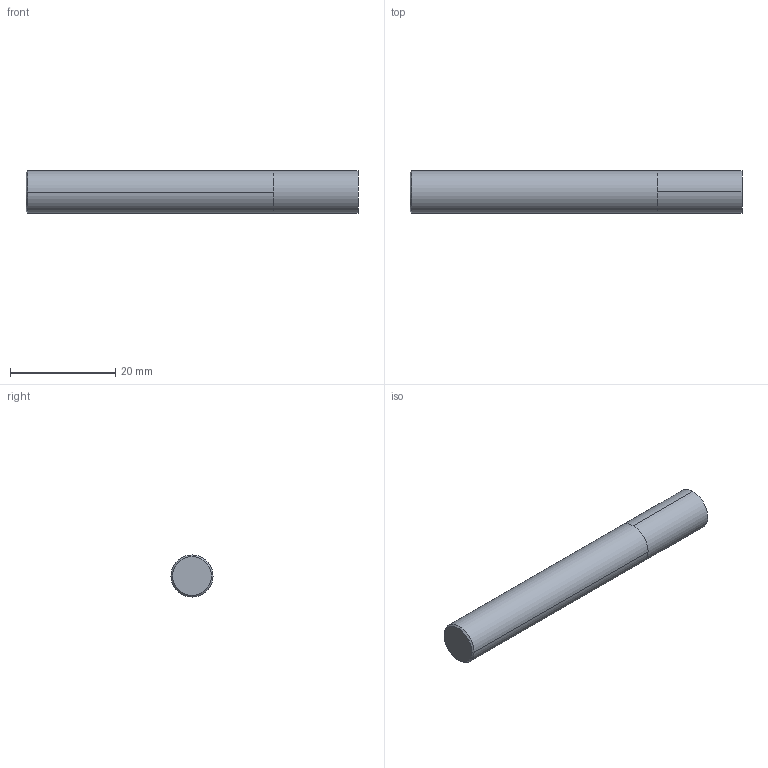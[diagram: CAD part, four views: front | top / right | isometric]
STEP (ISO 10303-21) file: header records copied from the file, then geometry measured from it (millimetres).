
FILE_DESCRIPTION (( 'STEP AP214' ), '1' );
FILE_NAME ('E599940662.STEP', '2021-02-19T08:59:18', ( 'USER' ), ( 'Hewlett-Packard Company' ), 'SwSTEP 2.0', 'SolidWorks 2014', '' );
FILE_SCHEMA (( 'AUTOMOTIVE_DESIGN' ));
Length unit declared in the file: millimetre
Products named in the file (1): E599940662
Bounding box: 63 x 8 x 8 mm (x, y, z)
Volume: 3165.6 mm3; surface area: 1779.9 mm2
Topology: 2 solids, 2 shells, 10 faces, 16 edges, 10 vertices
Faces by surface type: cylinder 4, plane 4, cone 2
Entity records: 321 total; most frequent: DIRECTION 48, CARTESIAN_POINT 37, ORIENTED_EDGE 32, AXIS2_PLACEMENT_3D 21, EDGE_CURVE 16, EDGE_LOOP 10, ADVANCED_FACE 10, VERTEX_POINT 10
